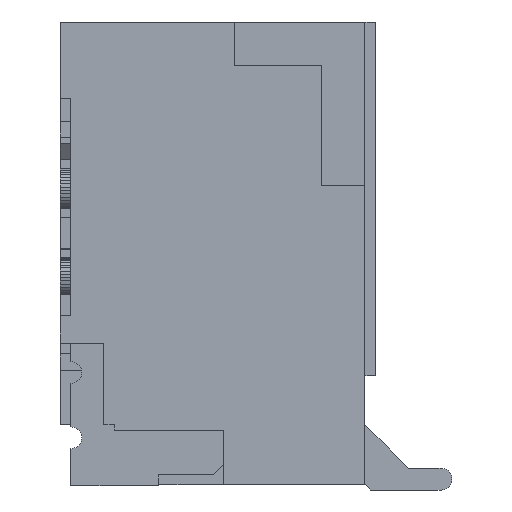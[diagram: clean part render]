
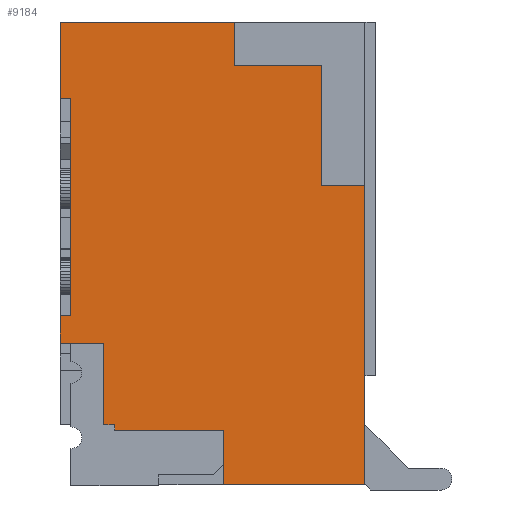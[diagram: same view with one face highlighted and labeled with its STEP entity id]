
A CAD part, left-side view. The second image highlights one B-rep face of the part: STEP entity #9184.
In plain terms, the highlighted planar face has unit normal (-1, 0, 0).
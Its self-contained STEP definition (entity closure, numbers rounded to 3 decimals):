
#1=DIRECTION('',(0.,0.,1.));
#2=VECTOR('',#1,2.);
#3=CARTESIAN_POINT('',(-3.,2.8,-2.7));
#4=LINE('',#3,#2);
#493=DIRECTION('',(0.,-1.,0.));
#494=VECTOR('',#493,0.1);
#495=CARTESIAN_POINT('',(-3.,2.9,-2.7));
#496=LINE('',#495,#494);
#509=DIRECTION('',(0.,0.,1.));
#510=VECTOR('',#509,0.7);
#511=CARTESIAN_POINT('',(-3.,2.9,-0.7));
#512=LINE('',#511,#510);
#517=DIRECTION('',(0.,0.,1.));
#518=VECTOR('',#517,0.25);
#519=CARTESIAN_POINT('',(-3.,2.9,-2.95));
#520=LINE('',#519,#518);
#529=DIRECTION('',(0.,-1.,0.));
#530=VECTOR('',#529,1.6);
#531=CARTESIAN_POINT('',(-3.,2.9,0.));
#532=LINE('',#531,#530);
#745=DIRECTION('',(0.,0.,1.));
#746=VECTOR('',#745,2.75);
#747=CARTESIAN_POINT('',(-3.,0.1,-4.25));
#748=LINE('',#747,#746);
#1830=DIRECTION('',(0.,-1.,0.));
#1831=VECTOR('',#1830,0.4);
#1832=CARTESIAN_POINT('',(-3.,2.9,-2.95));
#1833=LINE('',#1832,#1831);
#1842=DIRECTION('',(0.,0.,1.));
#1843=VECTOR('',#1842,0.75);
#1844=CARTESIAN_POINT('',(-3.,2.5,-3.7));
#1845=LINE('',#1844,#1843);
#1935=DIRECTION('',(0.,-1.,0.));
#1936=VECTOR('',#1935,0.1);
#1937=CARTESIAN_POINT('',(-3.,2.5,-3.7));
#1938=LINE('',#1937,#1936);
#1951=DIRECTION('',(0.,0.,1.));
#1952=VECTOR('',#1951,0.05);
#1953=CARTESIAN_POINT('',(-3.,2.4,-3.75));
#1954=LINE('',#1953,#1952);
#1963=DIRECTION('',(0.,-1.,0.));
#1964=VECTOR('',#1963,1.);
#1965=CARTESIAN_POINT('',(-3.,2.4,-3.75));
#1966=LINE('',#1965,#1964);
#2331=DIRECTION('',(0.,0.,1.));
#2332=VECTOR('',#2331,0.5);
#2333=CARTESIAN_POINT('',(-3.,1.4,-4.25));
#2334=LINE('',#2333,#2332);
#2355=DIRECTION('',(0.,-1.,0.));
#2356=VECTOR('',#2355,1.3);
#2357=CARTESIAN_POINT('',(-3.,1.4,-4.25));
#2358=LINE('',#2357,#2356);
#5205=DIRECTION('',(0.,-1.,0.));
#5206=VECTOR('',#5205,0.4);
#5207=CARTESIAN_POINT('',(-3.,0.5,-1.5));
#5208=LINE('',#5207,#5206);
#5225=DIRECTION('',(0.,0.,1.));
#5226=VECTOR('',#5225,1.1);
#5227=CARTESIAN_POINT('',(-3.,0.5,-1.5));
#5228=LINE('',#5227,#5226);
#5329=DIRECTION('',(0.,-1.,0.));
#5330=VECTOR('',#5329,0.8);
#5331=CARTESIAN_POINT('',(-3.,1.3,-0.4));
#5332=LINE('',#5331,#5330);
#5345=DIRECTION('',(0.,0.,1.));
#5346=VECTOR('',#5345,0.4);
#5347=CARTESIAN_POINT('',(-3.,1.3,-0.4));
#5348=LINE('',#5347,#5346);
#5521=DIRECTION('',(0.,-1.,0.));
#5522=VECTOR('',#5521,0.1);
#5523=CARTESIAN_POINT('',(-3.,2.9,-0.7));
#5524=LINE('',#5523,#5522);
#6933=CARTESIAN_POINT('',(-3.,2.8,-2.7));
#6934=CARTESIAN_POINT('',(-3.,2.8,-0.7));
#6935=VERTEX_POINT('',#6933);
#6936=VERTEX_POINT('',#6934);
#6937=CARTESIAN_POINT('',(-3.,2.9,-2.7));
#6938=VERTEX_POINT('',#6937);
#6939=CARTESIAN_POINT('',(-3.,2.9,-2.95));
#6940=VERTEX_POINT('',#6939);
#6941=CARTESIAN_POINT('',(-3.,2.5,-2.95));
#6942=VERTEX_POINT('',#6941);
#6943=CARTESIAN_POINT('',(-3.,2.5,-3.7));
#6944=VERTEX_POINT('',#6943);
#6945=CARTESIAN_POINT('',(-3.,2.4,-3.7));
#6946=VERTEX_POINT('',#6945);
#6947=CARTESIAN_POINT('',(-3.,2.4,-3.75));
#6948=VERTEX_POINT('',#6947);
#6949=CARTESIAN_POINT('',(-3.,1.4,-3.75));
#6950=VERTEX_POINT('',#6949);
#6951=CARTESIAN_POINT('',(-3.,1.4,-4.25));
#6952=VERTEX_POINT('',#6951);
#6953=CARTESIAN_POINT('',(-3.,0.1,-4.25));
#6954=VERTEX_POINT('',#6953);
#6955=CARTESIAN_POINT('',(-3.,0.1,-1.5));
#6956=VERTEX_POINT('',#6955);
#6957=CARTESIAN_POINT('',(-3.,0.5,-1.5));
#6958=VERTEX_POINT('',#6957);
#6959=CARTESIAN_POINT('',(-3.,0.5,-0.4));
#6960=VERTEX_POINT('',#6959);
#6961=CARTESIAN_POINT('',(-3.,1.3,-0.4));
#6962=VERTEX_POINT('',#6961);
#6963=CARTESIAN_POINT('',(-3.,1.3,0.));
#6964=VERTEX_POINT('',#6963);
#6965=CARTESIAN_POINT('',(-3.,2.9,0.));
#6966=VERTEX_POINT('',#6965);
#6967=CARTESIAN_POINT('',(-3.,2.9,-0.7));
#6968=VERTEX_POINT('',#6967);
#9141=CARTESIAN_POINT('',(-3.,1.5,-2.125));
#9142=DIRECTION('',(1.,0.,0.));
#9143=DIRECTION('',(0.,0.,-1.));
#9144=AXIS2_PLACEMENT_3D('',#9141,#9142,#9143);
#9145=PLANE('',#9144);
#9147=ORIENTED_EDGE('',*,*,#9146,.T.);
#9149=ORIENTED_EDGE('',*,*,#9148,.F.);
#9151=ORIENTED_EDGE('',*,*,#9150,.T.);
#9153=ORIENTED_EDGE('',*,*,#9152,.T.);
#9155=ORIENTED_EDGE('',*,*,#9154,.F.);
#9157=ORIENTED_EDGE('',*,*,#9156,.T.);
#9159=ORIENTED_EDGE('',*,*,#9158,.F.);
#9161=ORIENTED_EDGE('',*,*,#9160,.T.);
#9163=ORIENTED_EDGE('',*,*,#9162,.F.);
#9165=ORIENTED_EDGE('',*,*,#9164,.F.);
#9167=ORIENTED_EDGE('',*,*,#9166,.T.);
#9169=ORIENTED_EDGE('',*,*,#9168,.F.);
#9171=ORIENTED_EDGE('',*,*,#9170,.T.);
#9173=ORIENTED_EDGE('',*,*,#9172,.F.);
#9175=ORIENTED_EDGE('',*,*,#9174,.T.);
#9177=ORIENTED_EDGE('',*,*,#9176,.F.);
#9179=ORIENTED_EDGE('',*,*,#9178,.T.);
#9181=ORIENTED_EDGE('',*,*,#9180,.T.);
#9182=EDGE_LOOP('',(#9147,#9149,#9151,#9153,#9155,#9157,#9159,#9161,#9163,#9165,
#9167,#9169,#9171,#9173,#9175,#9177,#9179,#9181));
#9183=FACE_OUTER_BOUND('',#9182,.F.);
#9184=ADVANCED_FACE('',(#9183),#9145,.F.);
#9146=EDGE_CURVE('',#6935,#6936,#4,.T.);
#9148=EDGE_CURVE('',#6968,#6936,#5524,.T.);
#9150=EDGE_CURVE('',#6968,#6966,#512,.T.);
#9152=EDGE_CURVE('',#6966,#6964,#532,.T.);
#9154=EDGE_CURVE('',#6962,#6964,#5348,.T.);
#9156=EDGE_CURVE('',#6962,#6960,#5332,.T.);
#9158=EDGE_CURVE('',#6958,#6960,#5228,.T.);
#9160=EDGE_CURVE('',#6958,#6956,#5208,.T.);
#9162=EDGE_CURVE('',#6954,#6956,#748,.T.);
#9164=EDGE_CURVE('',#6952,#6954,#2358,.T.);
#9166=EDGE_CURVE('',#6952,#6950,#2334,.T.);
#9168=EDGE_CURVE('',#6948,#6950,#1966,.T.);
#9170=EDGE_CURVE('',#6948,#6946,#1954,.T.);
#9172=EDGE_CURVE('',#6944,#6946,#1938,.T.);
#9174=EDGE_CURVE('',#6944,#6942,#1845,.T.);
#9176=EDGE_CURVE('',#6940,#6942,#1833,.T.);
#9178=EDGE_CURVE('',#6940,#6938,#520,.T.);
#9180=EDGE_CURVE('',#6938,#6935,#496,.T.);
